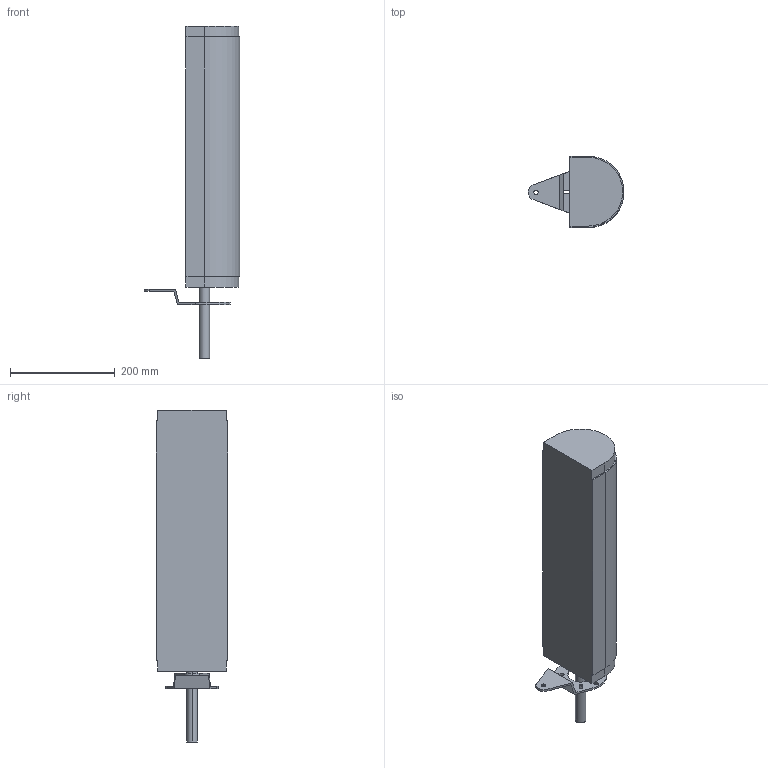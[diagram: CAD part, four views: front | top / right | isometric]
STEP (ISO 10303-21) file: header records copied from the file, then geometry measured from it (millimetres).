
FILE_DESCRIPTION (( 'STEP AP214' ), '1' );
FILE_NAME ('FS-MTC-150 500 links ra.STEP', '2017-12-21T09:28:54', ( '' ), ( '' ), 'SwSTEP 2.0', 'SolidWorks 2017', '' );
FILE_SCHEMA (( 'AUTOMOTIVE_DESIGN' ));
Length unit declared in the file: millimetre
Products named in the file (1): FS-MTC-150 500 links ra
Bounding box: 183 x 136 x 634 mm (x, y, z)
Volume: 6051759.7 mm3; surface area: 264630.6 mm2
Topology: 2 solids, 2 shells, 70 faces, 195 edges, 130 vertices
Faces by surface type: plane 36, cylinder 34
Entity records: 2350 total; most frequent: DIRECTION 405, CARTESIAN_POINT 396, ORIENTED_EDGE 390, EDGE_CURVE 195, AXIS2_PLACEMENT_3D 139, VERTEX_POINT 130, VECTOR 127, LINE 127
